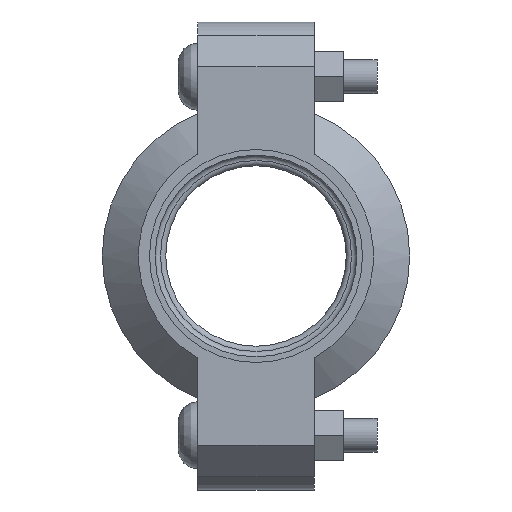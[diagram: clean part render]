
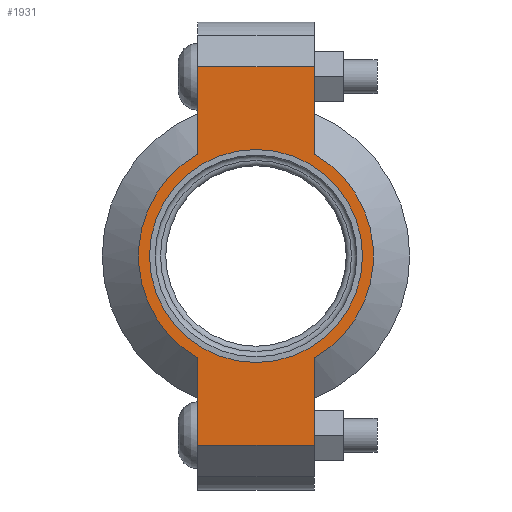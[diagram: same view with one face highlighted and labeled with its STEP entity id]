
A CAD part, left-side view. The second image highlights one B-rep face of the part: STEP entity #1931.
In plain terms, the highlighted planar face has unit normal (-1, 0, 0) as drawn and (0, 0, 1) by its records, which use the part's own axes.
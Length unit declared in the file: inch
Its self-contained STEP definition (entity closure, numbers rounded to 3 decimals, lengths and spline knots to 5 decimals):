
#120=LINE('',#3423,#217);
#128=LINE('',#3459,#225);
#135=LINE('',#3480,#232);
#144=LINE('',#3512,#241);
#145=LINE('',#3516,#242);
#146=LINE('',#3518,#243);
#217=VECTOR('',#2795,0.3937);
#225=VECTOR('',#2811,0.3937);
#232=VECTOR('',#2830,0.3937);
#241=VECTOR('',#2855,0.3937);
#242=VECTOR('',#2860,0.3937);
#243=VECTOR('',#2861,0.3937);
#299=FACE_BOUND('',#549,.T.);
#343=PLANE('',#2270);
#431=FACE_OUTER_BOUND('',#548,.T.);
#548=EDGE_LOOP('',(#1652,#1653,#1654,#1655,#1656,#1657,#1658,#1659));
#549=EDGE_LOOP('',(#1660));
#721=CIRCLE('',#2271,1.31);
#722=CIRCLE('',#2272,1.31);
#723=CIRCLE('',#2273,1.1875);
#885=VERTEX_POINT('',#3420);
#886=VERTEX_POINT('',#3422);
#897=VERTEX_POINT('',#3454);
#898=VERTEX_POINT('',#3458);
#905=VERTEX_POINT('',#3477);
#906=VERTEX_POINT('',#3479);
#916=VERTEX_POINT('',#3515);
#917=VERTEX_POINT('',#3517);
#918=VERTEX_POINT('',#3520);
#1130=EDGE_CURVE('',#886,#885,#120,.T.);
#1144=EDGE_CURVE('',#898,#897,#128,.T.);
#1154=EDGE_CURVE('',#906,#905,#135,.T.);
#1169=EDGE_CURVE('',#898,#885,#144,.T.);
#1170=EDGE_CURVE('',#897,#906,#721,.T.);
#1171=EDGE_CURVE('',#916,#905,#145,.T.);
#1172=EDGE_CURVE('',#916,#917,#146,.T.);
#1173=EDGE_CURVE('',#917,#886,#722,.T.);
#1174=EDGE_CURVE('',#918,#918,#723,.T.);
#1652=ORIENTED_EDGE('',*,*,#1169,.F.);
#1653=ORIENTED_EDGE('',*,*,#1144,.T.);
#1654=ORIENTED_EDGE('',*,*,#1170,.T.);
#1655=ORIENTED_EDGE('',*,*,#1154,.T.);
#1656=ORIENTED_EDGE('',*,*,#1171,.F.);
#1657=ORIENTED_EDGE('',*,*,#1172,.T.);
#1658=ORIENTED_EDGE('',*,*,#1173,.T.);
#1659=ORIENTED_EDGE('',*,*,#1130,.T.);
#1660=ORIENTED_EDGE('',*,*,#1174,.T.);
#1931=ADVANCED_FACE('',(#431,#299),#343,.T.);
#2270=AXIS2_PLACEMENT_3D('',#3513,#2856,#2857);
#2271=AXIS2_PLACEMENT_3D('',#3514,#2858,#2859);
#2272=AXIS2_PLACEMENT_3D('',#3519,#2862,#2863);
#2273=AXIS2_PLACEMENT_3D('',#3521,#2864,#2865);
#2795=DIRECTION('',(1.,0.,0.));
#2811=DIRECTION('',(-1.,0.,0.));
#2830=DIRECTION('',(-1.,0.,0.));
#2855=DIRECTION('',(0.,-1.,0.));
#2856=DIRECTION('center_axis',(0.,0.,1.));
#2857=DIRECTION('ref_axis',(-1.,0.,0.));
#2858=DIRECTION('center_axis',(0.,0.,1.));
#2859=DIRECTION('ref_axis',(1.,0.,0.));
#2860=DIRECTION('',(0.,1.,0.));
#2861=DIRECTION('',(1.,0.,0.));
#2862=DIRECTION('center_axis',(0.,0.,1.));
#2863=DIRECTION('ref_axis',(1.,0.,0.));
#2864=DIRECTION('center_axis',(0.,0.,-1.));
#2865=DIRECTION('ref_axis',(1.,0.,0.));
#3420=CARTESIAN_POINT('',(2.11,-0.65,0.94));
#3422=CARTESIAN_POINT('',(1.13737,-0.65,0.94));
#3423=CARTESIAN_POINT('',(2.61,-0.65,0.94));
#3454=CARTESIAN_POINT('',(1.13737,0.65,0.94));
#3458=CARTESIAN_POINT('',(2.11,0.65,0.94));
#3459=CARTESIAN_POINT('',(-2.61,0.65,0.94));
#3477=CARTESIAN_POINT('',(-2.11,0.65,0.94));
#3479=CARTESIAN_POINT('',(-1.13737,0.65,0.94));
#3480=CARTESIAN_POINT('',(-2.61,0.65,0.94));
#3512=CARTESIAN_POINT('',(2.11,-0.325,0.94));
#3513=CARTESIAN_POINT('Origin',(0.,0.,
0.94));
#3514=CARTESIAN_POINT('Origin',(0.,0.,0.94));
#3515=CARTESIAN_POINT('',(-2.11,-0.65,0.94));
#3516=CARTESIAN_POINT('',(-2.11,0.325,0.94));
#3517=CARTESIAN_POINT('',(-1.13737,-0.65,0.94));
#3518=CARTESIAN_POINT('',(2.61,-0.65,0.94));
#3519=CARTESIAN_POINT('Origin',(0.,0.,0.94));
#3520=CARTESIAN_POINT('',(-1.1875,0.,0.94));
#3521=CARTESIAN_POINT('Origin',(0.,0.,0.94));
